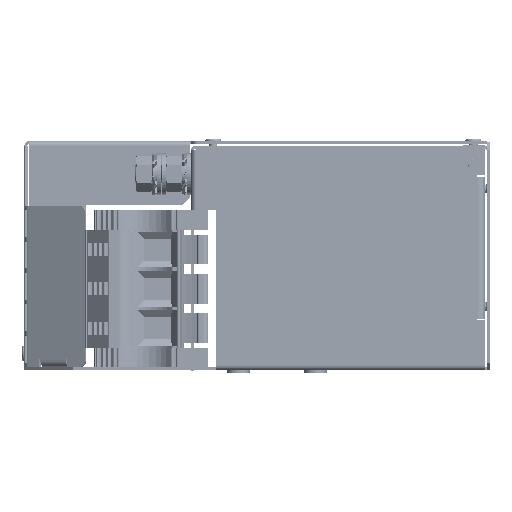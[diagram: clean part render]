
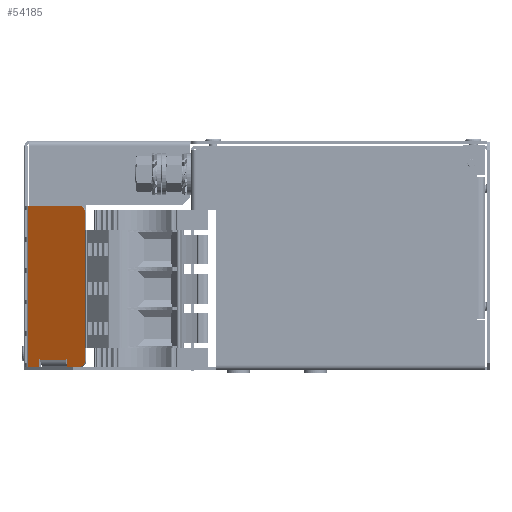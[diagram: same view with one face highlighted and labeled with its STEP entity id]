
A CAD part, left-side view. The second image highlights one B-rep face of the part: STEP entity #54185.
In plain terms, the highlighted planar face has unit normal (-0.866, 0.5, 0).
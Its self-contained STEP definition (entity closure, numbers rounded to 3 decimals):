
#646 = ORIENTED_EDGE ( 'NONE', *, *, #33087, .T. ) ;
#738 = DIRECTION ( 'NONE',  ( -0.5, -0.866, 0. ) ) ;
#956 = CARTESIAN_POINT ( 'NONE',  ( 42.209, 173.089, 1.9 ) ) ;
#1421 = DIRECTION ( 'NONE',  ( 0.5, 0.866, 0. ) ) ;
#2289 = VECTOR ( 'NONE', #1421, 1000. ) ;
#4118 = EDGE_CURVE ( 'NONE', #71603, #34185, #22304, .T. ) ;
#5473 = CARTESIAN_POINT ( 'NONE',  ( 48.509, 184.001, 1.9 ) ) ;
#5492 = CARTESIAN_POINT ( 'NONE',  ( 155.209, 368.81, 5.3 ) ) ;
#6060 = VECTOR ( 'NONE', #68624, 1000. ) ;
#7319 = AXIS2_PLACEMENT_3D ( 'NONE', #62431, #28153, #68136 ) ;
#8152 = LINE ( 'NONE', #956, #38712 ) ;
#8211 = VECTOR ( 'NONE', #38739, 1000. ) ;
#8461 = VERTEX_POINT ( 'NONE', #70297 ) ;
#8750 = VECTOR ( 'NONE', #45635, 1000. ) ;
#9407 = ORIENTED_EDGE ( 'NONE', *, *, #71878, .T. ) ;
#9680 = LINE ( 'NONE', #5473, #6060 ) ;
#10155 = CARTESIAN_POINT ( 'NONE',  ( 37.709, 165.294, 4.9 ) ) ;
#10592 = EDGE_CURVE ( 'NONE', #40394, #43668, #73609, .T. ) ;
#11018 = ORIENTED_EDGE ( 'NONE', *, *, #45669, .F. ) ;
#15152 = CARTESIAN_POINT ( 'NONE',  ( 37.709, 165.294, 64.9 ) ) ;
#15878 = CARTESIAN_POINT ( 'NONE',  ( 39.209, 167.893, 4.9 ) ) ;
#15945 = EDGE_CURVE ( 'NONE', #8461, #69977, #28937, .T. ) ;
#16467 = FACE_OUTER_BOUND ( 'NONE', #26632, .T. ) ;
#16849 = VECTOR ( 'NONE', #28546, 1000. ) ;
#17981 = VECTOR ( 'NONE', #738, 1000. ) ;
#18351 = VERTEX_POINT ( 'NONE', #25603 ) ;
#18659 = ORIENTED_EDGE ( 'NONE', *, *, #29129, .F. ) ;
#19488 = CARTESIAN_POINT ( 'NONE',  ( 39.209, 167.893, 67.9 ) ) ;
#19628 = ORIENTED_EDGE ( 'NONE', *, *, #71214, .F. ) ;
#20191 = ORIENTED_EDGE ( 'NONE', *, *, #32566, .T. ) ;
#21188 = EDGE_CURVE ( 'NONE', #18351, #71603, #65090, .T. ) ;
#21670 = DIRECTION ( 'NONE',  ( 0., 0., -1. ) ) ;
#22304 = LINE ( 'NONE', #5492, #8750 ) ;
#23381 = LINE ( 'NONE', #40820, #17981 ) ;
#23568 = LINE ( 'NONE', #61552, #8211 ) ;
#23734 = CARTESIAN_POINT ( 'NONE',  ( 42.209, 173.089, 4.7 ) ) ;
#24721 = DIRECTION ( 'NONE',  ( 0.5, 0.866, 0. ) ) ;
#25603 = CARTESIAN_POINT ( 'NONE',  ( 48.209, 183.481, 4.7 ) ) ;
#26275 = AXIS2_PLACEMENT_3D ( 'NONE', #63788, #29519, #69532 ) ;
#26632 = EDGE_LOOP ( 'NONE', ( #19628, #48674, #40836, #56156, #62361, #40218, #51359, #18659, #646, #69296, #9407, #70573, #20191, #11018 ) ) ;
#26762 = AXIS2_PLACEMENT_3D ( 'NONE', #15878, #55945, #21670 ) ;
#27860 = LINE ( 'NONE', #62650, #69900 ) ;
#27949 = CIRCLE ( 'NONE', #26762, 3. ) ;
#28153 = DIRECTION ( 'NONE',  ( 0.866, -0.5, 0. ) ) ;
#28546 = DIRECTION ( 'NONE',  ( 0., 0., -1. ) ) ;
#28883 = VERTEX_POINT ( 'NONE', #10155 ) ;
#28937 = LINE ( 'NONE', #72299, #42301 ) ;
#28964 = CARTESIAN_POINT ( 'NONE',  ( 51.709, 189.543, 67.9 ) ) ;
#29129 = EDGE_CURVE ( 'NONE', #67623, #8461, #43280, .T. ) ;
#29519 = DIRECTION ( 'NONE',  ( -0.866, 0.5, 0. ) ) ;
#32566 = EDGE_CURVE ( 'NONE', #40394, #71126, #23568, .T. ) ;
#32831 = LINE ( 'NONE', #64543, #2289 ) ;
#33087 = EDGE_CURVE ( 'NONE', #67623, #28883, #27949, .T. ) ;
#34185 = VERTEX_POINT ( 'NONE', #38049 ) ;
#34660 = VECTOR ( 'NONE', #67121, 1000. ) ;
#34746 = DIRECTION ( 'NONE',  ( -0.5, -0.866, 0. ) ) ;
#36158 = CARTESIAN_POINT ( 'NONE',  ( 42.209, 173.089, 5.3 ) ) ;
#38016 = DIRECTION ( 'NONE',  ( 0., 0., 1. ) ) ;
#38049 = CARTESIAN_POINT ( 'NONE',  ( 48.509, 184.001, 5.3 ) ) ;
#38712 = VECTOR ( 'NONE', #58347, 1000. ) ;
#38739 = DIRECTION ( 'NONE',  ( 0., 0., -1. ) ) ;
#40218 = ORIENTED_EDGE ( 'NONE', *, *, #69470, .F. ) ;
#40394 = VERTEX_POINT ( 'NONE', #61481 ) ;
#40820 = CARTESIAN_POINT ( 'NONE',  ( 48.209, 183.481, 4.7 ) ) ;
#40836 = ORIENTED_EDGE ( 'NONE', *, *, #21188, .F. ) ;
#42301 = VECTOR ( 'NONE', #38016, 1000. ) ;
#42983 = EDGE_CURVE ( 'NONE', #18351, #59038, #23381, .T. ) ;
#43280 = LINE ( 'NONE', #59010, #56718 ) ;
#43668 = VERTEX_POINT ( 'NONE', #19488 ) ;
#44939 = VECTOR ( 'NONE', #34746, 1000. ) ;
#45124 = CARTESIAN_POINT ( 'NONE',  ( 51.164, 188.6, 1.9 ) ) ;
#45635 = DIRECTION ( 'NONE',  ( 0.5, 0.866, 0. ) ) ;
#45669 = EDGE_CURVE ( 'NONE', #55328, #71126, #32831, .T. ) ;
#47232 = EDGE_CURVE ( 'NONE', #73950, #28883, #62546, .T. ) ;
#47283 = CIRCLE ( 'NONE', #26275, 3. ) ;
#48674 = ORIENTED_EDGE ( 'NONE', *, *, #4118, .F. ) ;
#50270 = CARTESIAN_POINT ( 'NONE',  ( 48.509, 184.001, 1.9 ) ) ;
#50907 = PLANE ( 'NONE',  #7319 ) ;
#51359 = ORIENTED_EDGE ( 'NONE', *, *, #15945, .F. ) ;
#51822 = CARTESIAN_POINT ( 'NONE',  ( 41.909, 172.569, 5.3 ) ) ;
#54185 = ADVANCED_FACE ( 'NONE', ( #16467 ), #50907, .F. ) ;
#55328 = VERTEX_POINT ( 'NONE', #50270 ) ;
#55945 = DIRECTION ( 'NONE',  ( -0.866, 0.5, 0. ) ) ;
#56156 = ORIENTED_EDGE ( 'NONE', *, *, #42983, .T. ) ;
#56718 = VECTOR ( 'NONE', #24721, 1000. ) ;
#56886 = DIRECTION ( 'NONE',  ( 0.5, 0.866, 0. ) ) ;
#57284 = CARTESIAN_POINT ( 'NONE',  ( 37.709, 165.294, 1.9 ) ) ;
#58347 = DIRECTION ( 'NONE',  ( 0., 0., -1. ) ) ;
#59010 = CARTESIAN_POINT ( 'NONE',  ( 169.209, 393.059, 1.9 ) ) ;
#59038 = VERTEX_POINT ( 'NONE', #23734 ) ;
#61101 = CARTESIAN_POINT ( 'NONE',  ( 48.209, 183.481, 5.3 ) ) ;
#61435 = CARTESIAN_POINT ( 'NONE',  ( 39.209, 167.893, 1.9 ) ) ;
#61481 = CARTESIAN_POINT ( 'NONE',  ( 51.164, 188.6, 67.9 ) ) ;
#61552 = CARTESIAN_POINT ( 'NONE',  ( 51.164, 188.6, 1.9 ) ) ;
#62361 = ORIENTED_EDGE ( 'NONE', *, *, #63832, .F. ) ;
#62431 = CARTESIAN_POINT ( 'NONE',  ( 155.209, 368.81, 1.9 ) ) ;
#62546 = LINE ( 'NONE', #57284, #16849 ) ;
#62650 = CARTESIAN_POINT ( 'NONE',  ( 155.209, 368.81, 5.3 ) ) ;
#63788 = CARTESIAN_POINT ( 'NONE',  ( 39.209, 167.893, 64.9 ) ) ;
#63832 = EDGE_CURVE ( 'NONE', #74334, #59038, #8152, .T. ) ;
#64543 = CARTESIAN_POINT ( 'NONE',  ( 169.209, 393.059, 1.9 ) ) ;
#65090 = LINE ( 'NONE', #72636, #34660 ) ;
#67121 = DIRECTION ( 'NONE',  ( 0., 0., 1. ) ) ;
#67623 = VERTEX_POINT ( 'NONE', #61435 ) ;
#68136 = DIRECTION ( 'NONE',  ( 0., 0., -1. ) ) ;
#68624 = DIRECTION ( 'NONE',  ( 0., 0., -1. ) ) ;
#69296 = ORIENTED_EDGE ( 'NONE', *, *, #47232, .F. ) ;
#69470 = EDGE_CURVE ( 'NONE', #69977, #74334, #27860, .T. ) ;
#69532 = DIRECTION ( 'NONE',  ( 0., 0., -1. ) ) ;
#69900 = VECTOR ( 'NONE', #56886, 1000. ) ;
#69977 = VERTEX_POINT ( 'NONE', #51822 ) ;
#70297 = CARTESIAN_POINT ( 'NONE',  ( 41.909, 172.569, 1.9 ) ) ;
#70573 = ORIENTED_EDGE ( 'NONE', *, *, #10592, .F. ) ;
#71126 = VERTEX_POINT ( 'NONE', #45124 ) ;
#71214 = EDGE_CURVE ( 'NONE', #34185, #55328, #9680, .T. ) ;
#71603 = VERTEX_POINT ( 'NONE', #61101 ) ;
#71878 = EDGE_CURVE ( 'NONE', #73950, #43668, #47283, .T. ) ;
#72299 = CARTESIAN_POINT ( 'NONE',  ( 41.909, 172.569, 1.9 ) ) ;
#72636 = CARTESIAN_POINT ( 'NONE',  ( 48.209, 183.481, 1.9 ) ) ;
#73609 = LINE ( 'NONE', #28964, #44939 ) ;
#73950 = VERTEX_POINT ( 'NONE', #15152 ) ;
#74334 = VERTEX_POINT ( 'NONE', #36158 ) ;
